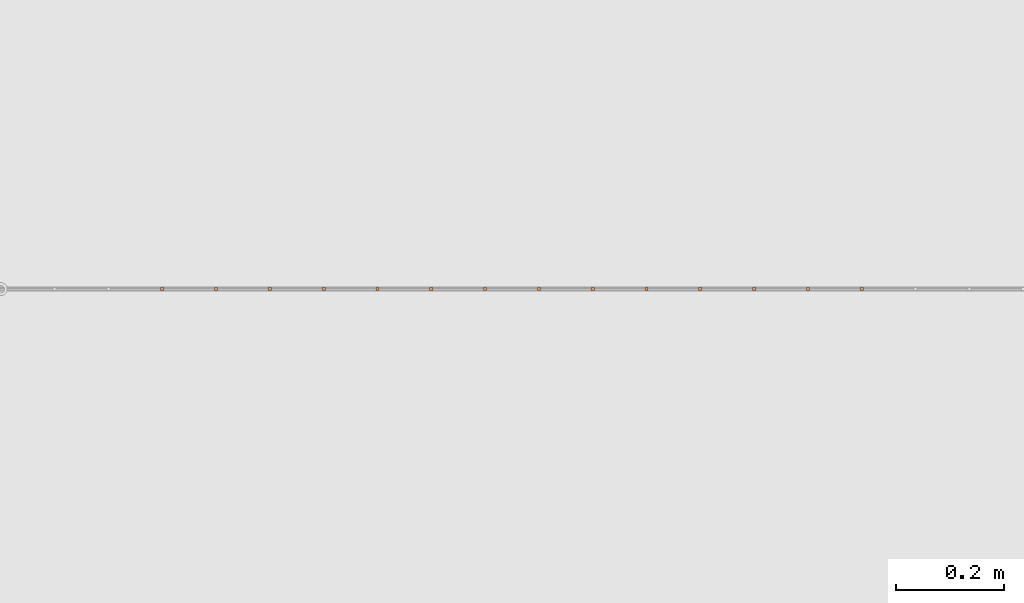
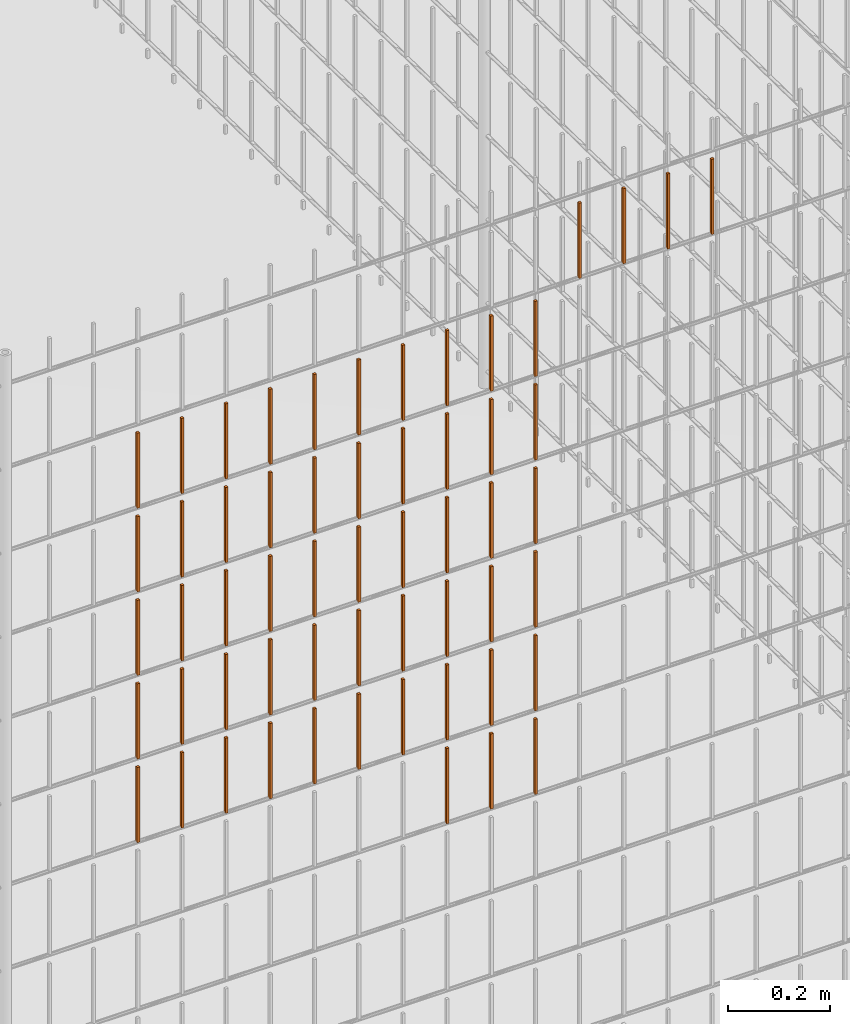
# One storey, part 250 of 1809: 57 proxies, 1 element without a shape of its own.
"""IFC2X3 building model written with IfcOpenShell, lengths in millimetres."""

import ifcopenshell
import ifcopenshell.guid

model = None  # the IFC model being written
_history = None  # IfcOwnerHistory: only IFC2X3 demands one
_inside = {}  # id of a spatial element -> (the spatial element, [elements in it])
_under = {}  # id of a project, library or spatial element -> (it, [spatial elements below it])
_declared = {}  # id of a project -> (the project, [libraries it declares])
_typed = {}  # id of a type object -> (the type object, [elements of that type])
_made_of = {}  # id of a material, layer set ... -> (it, [elements and type objects made of it])


def new_model(schema):
    """Start an empty IFC model of exactly this schema.

    Asked for "IFC4X3", IfcOpenShell would pick the latest addendum, in which some entities
    have other attributes; the version numbers below select the first issue.
    IFC2X3 requires an IfcOwnerHistory on every rooted entity: one is made here for all.
    """
    global model, _history
    if schema == "IFC4X3":
        model = ifcopenshell.file(schema_version=(4, 3, 0, 0))
    else:
        model = ifcopenshell.file(schema=schema)
    _inside.clear()
    _under.clear()
    _declared.clear()
    _typed.clear()
    _made_of.clear()
    _history = None
    if model.schema == "IFC2X3":
        org = make("IfcOrganization", Name="unknown")
        user = make(
            "IfcPersonAndOrganization",
            ThePerson=make("IfcPerson", FamilyName="unknown"),
            TheOrganization=org,
        )
        app = make(
            "IfcApplication",
            ApplicationDeveloper=org,
            Version="unknown",
            ApplicationFullName="unknown",
            ApplicationIdentifier="unknown",
        )
        _history = make(
            "IfcOwnerHistory",
            OwningUser=user,
            OwningApplication=app,
            ChangeAction="ADDED",
            CreationDate=0,
        )
    return model


def make(cls, **values):
    """One entity of the class cls with the attributes given. An attribute that is None is left unset."""
    return model.create_entity(
        cls, **{name: value for name, value in values.items() if value is not None}
    )


def entity(cls, *values):
    """Any entity or typed value of the class cls, its attributes in the order of the schema. None: left unset."""
    e = model.create_entity(cls)
    for i, value in enumerate(values):
        if value is not None:
            e[i] = value
    return e


def rooted(cls, **values):
    """An entity with a GlobalId (a new one), such as an element, a storey or a relation."""
    return make(cls, GlobalId=ifcopenshell.guid.new(), OwnerHistory=_history, **values)


def si_unit(unit_type, name, prefix=None):
    """IfcSIUnit, for example si_unit("LENGTHUNIT", "METRE", prefix="MILLI")."""
    return make("IfcSIUnit", UnitType=unit_type, Prefix=prefix, Name=name)


def converted_unit(unit_type, name, factor, base, dimensions=None, offset=None):
    """IfcConversionBasedUnit, such as the inch: factor (a typed value) times the base unit."""
    return make(
        "IfcConversionBasedUnit"
        if offset is None
        else "IfcConversionBasedUnitWithOffset",
        ConversionOffset=offset,
        Dimensions=None
        if dimensions is None
        else entity("IfcDimensionalExponents", *dimensions),
        UnitType=unit_type,
        Name=name,
        ConversionFactor=make(
            "IfcMeasureWithUnit", ValueComponent=factor, UnitComponent=base
        ),
    )


def derived_unit(unit_type, elements):
    """IfcDerivedUnit: a product of units, each with its exponent."""
    return make(
        "IfcDerivedUnit",
        Elements=[
            make("IfcDerivedUnitElement", Unit=unit, Exponent=power)
            for unit, power in elements
        ],
        UnitType=unit_type,
    )


def money_unit(currency):
    """IfcMonetaryUnit."""
    return make("IfcMonetaryUnit", Currency=currency)


def assignment(units):
    """IfcUnitAssignment: the units of a project."""
    return None if units is None else make("IfcUnitAssignment", Units=units)


def point(xyz):
    """IfcCartesianPoint."""
    return None if xyz is None else make("IfcCartesianPoint", Coordinates=xyz)


def direction(xyz):
    """IfcDirection."""
    return None if xyz is None else make("IfcDirection", DirectionRatios=xyz)


def frame(location, z_axis=None, x_axis=None):
    """IfcAxis2Placement3D, a coordinate frame: its origin and axes. An axis left out is left unset."""
    return make(
        "IfcAxis2Placement3D",
        Location=point(location),
        Axis=direction(z_axis),
        RefDirection=direction(x_axis),
    )


def origin_with_axes():
    """The frame at (0, 0, 0) with the z axis (0, 0, 1) and the x axis (1, 0, 0) written out."""
    return frame((0.0, 0.0, 0.0), z_axis=(0.0, 0.0, 1.0), x_axis=(1.0, 0.0, 0.0))


def place(relative_to, where):
    """IfcLocalPlacement: puts the frame where relative to a parent placement (None: the world)."""
    return make(
        "IfcLocalPlacement", PlacementRelTo=relative_to, RelativePlacement=where
    )


def context(
    kind, dimensions, precision=None, world=None, true_north=None, identifier=None
):
    """IfcGeometricRepresentationContext, for example the 3D "Model" context."""
    return make(
        "IfcGeometricRepresentationContext",
        ContextIdentifier=identifier,
        ContextType=kind,
        CoordinateSpaceDimension=dimensions,
        Precision=precision,
        WorldCoordinateSystem=world,
        TrueNorth=true_north,
    )


def subcontext(parent, identifier, kind, view, scale=None):
    """IfcGeometricRepresentationSubContext, for example "Body" below "Model"."""
    return make(
        "IfcGeometricRepresentationSubContext",
        ContextIdentifier=identifier,
        ContextType=kind,
        ParentContext=parent,
        TargetScale=scale,
        TargetView=view,
    )


def project(units=None, contexts=None):
    """IfcProject with its units and contexts."""
    return rooted(
        "IfcProject",
        Name="project",
        RepresentationContexts=contexts,
        UnitsInContext=assignment(units),
    )


def spatial(cls, under=None, at=None, **own):
    """A site, building, storey or space (cls), placed at a placement, below another one or the project."""
    s = rooted(cls, ObjectPlacement=at, **own)
    if under is not None:
        _under.setdefault(under.id(), (under, []))[1].append(s)
    return s


def faces_of(points, faces, orient=None, outer=None):
    """IfcFace entities. A face is a list of loops; a loop is a list of indices into points, from 0.

    orient and outer hold one flag for each loop. By default every Orientation is true, the
    first loop of a face is its IfcFaceOuterBound and the others are IfcFaceBound.
    """
    made = []
    for i, loops in enumerate(faces):
        bounds = []
        for j, loop in enumerate(loops):
            is_outer = j == 0 if outer is None else outer[i][j]
            bounds.append(
                make(
                    "IfcFaceOuterBound" if is_outer else "IfcFaceBound",
                    Bound=make("IfcPolyLoop", Polygon=[points[k] for k in loop]),
                    Orientation=True if orient is None else orient[i][j],
                )
            )
        made.append(make("IfcFace", Bounds=bounds))
    return made


def faceted_brep(points, faces, orient=None, outer=None, voids=None):
    """IfcFacetedBrep: a solid bounded by flat faces; with voids (closed shells), ...WithVoids."""
    shared = [point(p) for p in points]
    hull = make("IfcClosedShell", CfsFaces=faces_of(shared, faces, orient, outer))
    if voids is None:
        return make("IfcFacetedBrep", Outer=hull)
    return make(
        "IfcFacetedBrepWithVoids",
        Outer=hull,
        Voids=[
            make(cls, CfsFaces=faces_of(shared, fs, o, b)) for cls, fs, o, b in voids
        ],
    )


def shape(context_of_items, identifier, shape_type, items):
    """IfcShapeRepresentation: the items that make up one representation, for example the "Body"."""
    return make(
        "IfcShapeRepresentation",
        ContextOfItems=context_of_items,
        RepresentationIdentifier=identifier,
        RepresentationType=shape_type,
        Items=items,
    )


def source(mapping_origin, context_of_items, identifier, shape_type, items):
    """IfcRepresentationMap: a shape defined once, which mapped items show again and again."""
    return make(
        "IfcRepresentationMap",
        MappingOrigin=mapping_origin,
        MappedRepresentation=shape(context_of_items, identifier, shape_type, items),
    )


def transform(
    local_origin,
    x_axis=None,
    y_axis=None,
    z_axis=None,
    scale=None,
    scale2=None,
    scale3=None,
    uniform=True,
):
    """IfcCartesianTransformationOperator3D, or its non-uniform kind. x_axis, y_axis, z_axis: its Axis1, 2, 3."""
    if uniform:
        return make(
            "IfcCartesianTransformationOperator3D",
            Axis1=direction(x_axis),
            Axis2=direction(y_axis),
            LocalOrigin=point(local_origin),
            Scale=scale,
            Axis3=direction(z_axis),
        )
    return make(
        "IfcCartesianTransformationOperator3DnonUniform",
        Axis1=direction(x_axis),
        Axis2=direction(y_axis),
        LocalOrigin=point(local_origin),
        Scale=scale,
        Axis3=direction(z_axis),
        Scale2=scale2,
        Scale3=scale3,
    )


def mapped(mapping_source, mapping_target):
    """IfcMappedItem: shows the shape of a source again, moved by a transform."""
    return make(
        "IfcMappedItem", MappingSource=mapping_source, MappingTarget=mapping_target
    )


def material(Name=None, Category=None):
    """IfcMaterial."""
    return make("IfcMaterial", Name=Name, Category=Category)


def made_of(thing, what):
    """Note that an element or type object is made of a material, layer set ...; save() writes the relation."""
    if what is not None:
        _made_of.setdefault(what.id(), (what, []))[1].append(thing)
    return thing


def type_object(cls, material=None, **own):
    """A type object (cls), such as IfcWallType, which elements share."""
    return made_of(rooted(cls, **own), material)


def element(
    cls,
    number,
    at=None,
    inside=None,
    cuts=None,
    type_object=None,
    material=None,
    context=None,
    identifier="Body",
    shape_type=None,
    held_by="IfcProductDefinitionShape",
    body=None,
    shapes=None,
    **own,
):
    """One element of the class cls, such as IfcWall. Its Tag is "e" and its number.

    at: its placement. inside: the storey or other place that contains it. cuts: it is an
    opening in that element (IfcRelVoidsElement). A single representation is given by context,
    identifier, shape_type and body (its items); several are given by shapes. held_by: the class
    of the entity that holds the representations. save() writes the other relations.
    """
    e = rooted(cls, Tag="e%d" % number, ObjectPlacement=at, **own)
    if body is not None:
        shapes = [shape(context, identifier, shape_type, body)]
    if shapes is not None:
        e.Representation = make(held_by, Representations=shapes)
    if inside is not None:
        _inside.setdefault(inside.id(), (inside, []))[1].append(e)
    if cuts is not None:
        rooted(
            "IfcRelVoidsElement", RelatingBuildingElement=cuts, RelatedOpeningElement=e
        )
    if type_object is not None:
        _typed.setdefault(type_object.id(), (type_object, []))[1].append(e)
    return made_of(e, material)


def aggregate(whole, parts):
    """IfcRelAggregates: a whole, such as a stair, and the parts it consists of."""
    return rooted("IfcRelAggregates", RelatingObject=whole, RelatedObjects=parts)


def save(model, path):
    """Write the relations noted so far, then the file.

    IfcRelAggregates (storeys below a building ...), IfcRelContainedInSpatialStructure (elements
    in a storey), IfcRelDefinesByType, IfcRelAssociatesMaterial and IfcRelDeclares: one each for
    every whole, place, type object, material and project.
    """
    for whole, parts in _under.values():
        aggregate(whole, parts)
    for where, things in _inside.values():
        rooted(
            "IfcRelContainedInSpatialStructure",
            RelatedElements=things,
            RelatingStructure=where,
        )
    for kind, things in _typed.values():
        rooted("IfcRelDefinesByType", RelatedObjects=things, RelatingType=kind)
    for what, things in _made_of.values():
        rooted("IfcRelAssociatesMaterial", RelatedObjects=things, RelatingMaterial=what)
    for by, libraries in _declared.values():
        rooted("IfcRelDeclares", RelatingContext=by, RelatedDefinitions=libraries)
    model.write(path)


model = new_model("IFC2X3")

# Units and contexts
model_context = context("Model", 3, precision=0.01, world=origin_with_axes(), true_north=direction((0.0, 1.0)))
body_context = subcontext(model_context, "Body", "Model", "MODEL_VIEW")
ifc_project = project(units=[si_unit("LENGTHUNIT", "METRE", prefix="MILLI"), si_unit("AREAUNIT", "SQUARE_METRE"), si_unit("VOLUMEUNIT", "CUBIC_METRE"), converted_unit("PLANEANGLEUNIT", "DEGREE", entity("IfcPlaneAngleMeasure", 0.0174532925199), si_unit("PLANEANGLEUNIT", "RADIAN"), dimensions=[0, 0, 0, 0, 0, 0, 0]), si_unit("SOLIDANGLEUNIT", "STERADIAN"), money_unit("EUR"), converted_unit("TIMEUNIT", "Year", entity("IfcTimeMeasure", 31556926.0), si_unit("TIMEUNIT", "SECOND"), dimensions=[0, 0, 1, 0, 0, 0, 0]), si_unit("MASSUNIT", "GRAM", prefix="KILO"), si_unit("THERMODYNAMICTEMPERATUREUNIT", "DEGREE_CELSIUS"), si_unit("LUMINOUSINTENSITYUNIT", "LUMEN"), si_unit("ENERGYUNIT", "JOULE", prefix="MEGA"), derived_unit("THERMALCONDUCTANCEUNIT", [(si_unit("POWERUNIT", "WATT"), 1), (si_unit("LENGTHUNIT", "METRE"), -1), (si_unit("THERMODYNAMICTEMPERATUREUNIT", "KELVIN"), -1)]), derived_unit("SPECIFICHEATCAPACITYUNIT", [(si_unit("ENERGYUNIT", "JOULE"), 1), (si_unit("MASSUNIT", "GRAM", prefix="KILO"), -1), (si_unit("THERMODYNAMICTEMPERATUREUNIT", "KELVIN"), -1)]), derived_unit("MASSDENSITYUNIT", [(si_unit("MASSUNIT", "GRAM", prefix="KILO"), 1), (si_unit("VOLUMEUNIT", "CUBIC_METRE"), -1)])], contexts=[model_context])

# Site, building, storey
site_placement = place(None, origin_with_axes())
site = spatial("IfcSite", under=ifc_project, at=site_placement, Name="Politse- ja Piirivalveameti ning Päästeameti ühishoone", CompositionType="ELEMENT")
building_placement = place(site_placement, origin_with_axes())
building = spatial("IfcBuilding", under=site, at=building_placement, Name="Politse- ja Piirivalveameti ning Päästeameti ühishoone", CompositionType="ELEMENT")
storey_placement = place(building_placement, origin_with_axes())
storey = spatial("IfcBuildingStorey", under=building, at=storey_placement, Name="Esimene korrus", CompositionType="ELEMENT", Elevation=0.0)

# Proxies
building_element_proxy_type_1 = type_object("IfcBuildingElementProxyType", Name="Railing Type", PredefinedType="NOTDEFINED")
proxy_1_placement = place(storey_placement, frame((-16775.8601056, 25156.7555964, 0.0), z_axis=(0.0, 0.0, 1.0), x_axis=(1.0, 0.0, 0.0)))
proxy_1 = element("IfcBuildingElementProxy", 1, at=proxy_1_placement, inside=storey, type_object=building_element_proxy_type_1, Name="KENNELI PIIRE")
ifc_material = material(Name="Teras - Konstruktsioon")
building_element_proxy_type_2 = type_object("IfcBuildingElementProxyType", Name="IfcBuildingElementProxy", PredefinedType="NOTDEFINED")
shared_shape_1 = source(origin_with_axes(), body_context, "Body", "Brep", [
    faceted_brep([(3.0, 3.0, 0.0), (-3.0, 3.0, 0.0), (-3.0, 3.0, 180.000012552), (3.0, 3.0, 180.000012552), (3.0, -3.0, 0.0), (-3.0, -3.0, 0.0), (-3.0, -3.0, 180.000012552), (3.0, -3.0, 180.000012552)], [[[0, 1, 2, 3]], [[0, 4, 5, 1]], [[1, 5, 6, 2]], [[3, 2, 6, 7]], [[4, 0, 3, 7]], [[5, 4, 7, 6]]]),
])
proxy_2_placement = place(proxy_1_placement, frame((-1382.26655065, -16068.8402798, 1003.99998745), z_axis=(0.0, 0.0, 1.0), x_axis=(1.0, 0.0, 0.0)))
proxy_2 = element("IfcBuildingElementProxy", 2, at=proxy_2_placement, type_object=building_element_proxy_type_2, material=ifc_material, Name="BALUSTER - 001", context=body_context, shape_type="MappedRepresentation", body=[
    mapped(shared_shape_1, transform((0.0, 0.0, 0.0), x_axis=(0.0, -1.0, 0.0), y_axis=(1.0, 0.0, 0.0), z_axis=(0.0, 0.0, 1.0))),
])
proxy_3_placement = place(proxy_1_placement, frame((-1282.26655065, -16068.8402798, 1003.99998745), z_axis=(0.0, 0.0, 1.0), x_axis=(1.0, 0.0, 0.0)))
proxy_3 = element("IfcBuildingElementProxy", 3, at=proxy_3_placement, type_object=building_element_proxy_type_2, material=ifc_material, Name="BALUSTER - 001", context=body_context, shape_type="MappedRepresentation", body=[
    mapped(shared_shape_1, transform((0.0, 0.0, 0.0), x_axis=(0.0, -1.0, 0.0), y_axis=(1.0, 0.0, 0.0), z_axis=(0.0, 0.0, 1.0))),
])
proxy_4_placement = place(proxy_1_placement, frame((-1182.26655065, -16068.8402798, 1003.99998745), z_axis=(0.0, 0.0, 1.0), x_axis=(1.0, 0.0, 0.0)))
proxy_4 = element("IfcBuildingElementProxy", 4, at=proxy_4_placement, type_object=building_element_proxy_type_2, material=ifc_material, Name="BALUSTER - 001", context=body_context, shape_type="MappedRepresentation", body=[
    mapped(shared_shape_1, transform((0.0, 0.0, 0.0), x_axis=(0.0, -1.0, 0.0), y_axis=(1.0, 0.0, 0.0), z_axis=(0.0, 0.0, 1.0))),
])
proxy_5_placement = place(proxy_1_placement, frame((-1282.26655065, -16068.8402798, 1803.99998745), z_axis=(0.0, 0.0, 1.0), x_axis=(1.0, 0.0, 0.0)))
proxy_5 = element("IfcBuildingElementProxy", 5, at=proxy_5_placement, type_object=building_element_proxy_type_2, material=ifc_material, Name="BALUSTER - 001", context=body_context, shape_type="MappedRepresentation", body=[
    mapped(shared_shape_1, transform((0.0, 0.0, 0.0), x_axis=(0.0, -1.0, 0.0), y_axis=(1.0, 0.0, 0.0), z_axis=(0.0, 0.0, 1.0))),
])
shared_shape_2 = source(origin_with_axes(), body_context, "Body", "Brep", [
    faceted_brep([(3.0, 3.0, 0.0), (-3.0, 3.0, 0.0), (-3.0, 3.0, 180.000012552), (3.0, 3.0, 180.000012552), (3.0, -3.0, 0.0), (-3.0, -3.0, 0.0), (-3.0, -3.0, 180.000012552), (3.0, -3.0, 180.000012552)], [[[0, 1, 2, 3]], [[0, 4, 5, 1]], [[1, 5, 6, 2]], [[3, 2, 6, 7]], [[4, 0, 3, 7]], [[5, 4, 7, 6]]]),
])
proxy_6_placement = place(proxy_1_placement, frame((-2082.26655065, -16068.8402798, 1403.99998745), z_axis=(0.0, 0.0, 1.0), x_axis=(1.0, 0.0, 0.0)))
proxy_6 = element("IfcBuildingElementProxy", 6, at=proxy_6_placement, type_object=building_element_proxy_type_2, material=ifc_material, Name="BALUSTER - 001", context=body_context, shape_type="MappedRepresentation", body=[
    mapped(shared_shape_2, transform((0.0, 0.0, 0.0), x_axis=(0.0, -1.0, 0.0), y_axis=(1.0, 0.0, 0.0), z_axis=(0.0, 0.0, 1.0))),
])
proxy_7_placement = place(proxy_1_placement, frame((-1982.26655065, -16068.8402798, 1403.99998745), z_axis=(0.0, 0.0, 1.0), x_axis=(1.0, 0.0, 0.0)))
proxy_7 = element("IfcBuildingElementProxy", 7, at=proxy_7_placement, type_object=building_element_proxy_type_2, material=ifc_material, Name="BALUSTER - 001", context=body_context, shape_type="MappedRepresentation", body=[
    mapped(shared_shape_2, transform((0.0, 0.0, 0.0), x_axis=(0.0, -1.0, 0.0), y_axis=(1.0, 0.0, 0.0), z_axis=(0.0, 0.0, 1.0))),
])
proxy_8_placement = place(proxy_1_placement, frame((-1882.26655065, -16068.8402798, 1403.99998745), z_axis=(0.0, 0.0, 1.0), x_axis=(1.0, 0.0, 0.0)))
proxy_8 = element("IfcBuildingElementProxy", 8, at=proxy_8_placement, type_object=building_element_proxy_type_2, material=ifc_material, Name="BALUSTER - 001", context=body_context, shape_type="MappedRepresentation", body=[
    mapped(shared_shape_2, transform((0.0, 0.0, 0.0), x_axis=(0.0, -1.0, 0.0), y_axis=(1.0, 0.0, 0.0), z_axis=(0.0, 0.0, 1.0))),
])
proxy_9_placement = place(proxy_1_placement, frame((-1782.26655065, -16068.8402798, 1403.99998745), z_axis=(0.0, 0.0, 1.0), x_axis=(1.0, 0.0, 0.0)))
proxy_9 = element("IfcBuildingElementProxy", 9, at=proxy_9_placement, type_object=building_element_proxy_type_2, material=ifc_material, Name="BALUSTER - 001", context=body_context, shape_type="MappedRepresentation", body=[
    mapped(shared_shape_2, transform((0.0, 0.0, 0.0), x_axis=(0.0, -1.0, 0.0), y_axis=(1.0, 0.0, 0.0), z_axis=(0.0, 0.0, 1.0))),
])
proxy_10_placement = place(proxy_1_placement, frame((-1682.26655065, -16068.8402798, 1403.99998745), z_axis=(0.0, 0.0, 1.0), x_axis=(1.0, 0.0, 0.0)))
proxy_10 = element("IfcBuildingElementProxy", 10, at=proxy_10_placement, type_object=building_element_proxy_type_2, material=ifc_material, Name="BALUSTER - 001", context=body_context, shape_type="MappedRepresentation", body=[
    mapped(shared_shape_2, transform((0.0, 0.0, 0.0), x_axis=(0.0, -1.0, 0.0), y_axis=(1.0, 0.0, 0.0), z_axis=(0.0, 0.0, 1.0))),
])
proxy_11_placement = place(proxy_1_placement, frame((-1582.26655065, -16068.8402798, 1403.99998745), z_axis=(0.0, 0.0, 1.0), x_axis=(1.0, 0.0, 0.0)))
proxy_11 = element("IfcBuildingElementProxy", 11, at=proxy_11_placement, type_object=building_element_proxy_type_2, material=ifc_material, Name="BALUSTER - 001", context=body_context, shape_type="MappedRepresentation", body=[
    mapped(shared_shape_2, transform((0.0, 0.0, 0.0), x_axis=(0.0, -1.0, 0.0), y_axis=(1.0, 0.0, 0.0), z_axis=(0.0, 0.0, 1.0))),
])
proxy_12_placement = place(proxy_1_placement, frame((-1482.26655065, -16068.8402798, 1403.99998745), z_axis=(0.0, 0.0, 1.0), x_axis=(1.0, 0.0, 0.0)))
proxy_12 = element("IfcBuildingElementProxy", 12, at=proxy_12_placement, type_object=building_element_proxy_type_2, material=ifc_material, Name="BALUSTER - 001", context=body_context, shape_type="MappedRepresentation", body=[
    mapped(shared_shape_2, transform((0.0, 0.0, 0.0), x_axis=(0.0, -1.0, 0.0), y_axis=(1.0, 0.0, 0.0), z_axis=(0.0, 0.0, 1.0))),
])
proxy_13_placement = place(proxy_1_placement, frame((-1382.26655065, -16068.8402798, 1403.99998745), z_axis=(0.0, 0.0, 1.0), x_axis=(1.0, 0.0, 0.0)))
proxy_13 = element("IfcBuildingElementProxy", 13, at=proxy_13_placement, type_object=building_element_proxy_type_2, material=ifc_material, Name="BALUSTER - 001", context=body_context, shape_type="MappedRepresentation", body=[
    mapped(shared_shape_2, transform((0.0, 0.0, 0.0), x_axis=(0.0, -1.0, 0.0), y_axis=(1.0, 0.0, 0.0), z_axis=(0.0, 0.0, 1.0))),
])
proxy_14_placement = place(proxy_1_placement, frame((-1282.26655065, -16068.8402798, 1403.99998745), z_axis=(0.0, 0.0, 1.0), x_axis=(1.0, 0.0, 0.0)))
proxy_14 = element("IfcBuildingElementProxy", 14, at=proxy_14_placement, type_object=building_element_proxy_type_2, material=ifc_material, Name="BALUSTER - 001", context=body_context, shape_type="MappedRepresentation", body=[
    mapped(shared_shape_2, transform((0.0, 0.0, 0.0), x_axis=(0.0, -1.0, 0.0), y_axis=(1.0, 0.0, 0.0), z_axis=(0.0, 0.0, 1.0))),
])
proxy_15_placement = place(proxy_1_placement, frame((-1182.26655065, -16068.8402798, 1403.99998745), z_axis=(0.0, 0.0, 1.0), x_axis=(1.0, 0.0, 0.0)))
proxy_15 = element("IfcBuildingElementProxy", 15, at=proxy_15_placement, type_object=building_element_proxy_type_2, material=ifc_material, Name="BALUSTER - 001", context=body_context, shape_type="MappedRepresentation", body=[
    mapped(shared_shape_2, transform((0.0, 0.0, 0.0), x_axis=(0.0, -1.0, 0.0), y_axis=(1.0, 0.0, 0.0), z_axis=(0.0, 0.0, 1.0))),
])
shared_shape_3 = source(origin_with_axes(), body_context, "Body", "Brep", [
    faceted_brep([(3.0, 3.0, 0.0), (-3.0, 3.0, 0.0), (-3.0, 3.0, 180.000012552), (3.0, 3.0, 180.000012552), (3.0, -3.0, 0.0), (-3.0, -3.0, 0.0), (-3.0, -3.0, 180.000012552), (3.0, -3.0, 180.000012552)], [[[0, 1, 2, 3]], [[0, 4, 5, 1]], [[1, 5, 6, 2]], [[3, 2, 6, 7]], [[4, 0, 3, 7]], [[5, 4, 7, 6]]]),
])
proxy_16_placement = place(proxy_1_placement, frame((-2082.26655065, -16068.8402798, 1803.99998745), z_axis=(0.0, 0.0, 1.0), x_axis=(1.0, 0.0, 0.0)))
proxy_16 = element("IfcBuildingElementProxy", 16, at=proxy_16_placement, type_object=building_element_proxy_type_2, material=ifc_material, Name="BALUSTER - 001", context=body_context, shape_type="MappedRepresentation", body=[
    mapped(shared_shape_3, transform((0.0, 0.0, 0.0), x_axis=(0.0, -1.0, 0.0), y_axis=(1.0, 0.0, 0.0), z_axis=(0.0, 0.0, 1.0))),
])
proxy_17_placement = place(proxy_1_placement, frame((-1982.26655065, -16068.8402798, 1803.99998745), z_axis=(0.0, 0.0, 1.0), x_axis=(1.0, 0.0, 0.0)))
proxy_17 = element("IfcBuildingElementProxy", 17, at=proxy_17_placement, type_object=building_element_proxy_type_2, material=ifc_material, Name="BALUSTER - 001", context=body_context, shape_type="MappedRepresentation", body=[
    mapped(shared_shape_3, transform((0.0, 0.0, 0.0), x_axis=(0.0, -1.0, 0.0), y_axis=(1.0, 0.0, 0.0), z_axis=(0.0, 0.0, 1.0))),
])
proxy_18_placement = place(proxy_1_placement, frame((-1882.26655065, -16068.8402798, 1803.99998745), z_axis=(0.0, 0.0, 1.0), x_axis=(1.0, 0.0, 0.0)))
proxy_18 = element("IfcBuildingElementProxy", 18, at=proxy_18_placement, type_object=building_element_proxy_type_2, material=ifc_material, Name="BALUSTER - 001", context=body_context, shape_type="MappedRepresentation", body=[
    mapped(shared_shape_3, transform((0.0, 0.0, 0.0), x_axis=(0.0, -1.0, 0.0), y_axis=(1.0, 0.0, 0.0), z_axis=(0.0, 0.0, 1.0))),
])
proxy_19_placement = place(proxy_1_placement, frame((-1782.26655065, -16068.8402798, 1803.99998745), z_axis=(0.0, 0.0, 1.0), x_axis=(1.0, 0.0, 0.0)))
proxy_19 = element("IfcBuildingElementProxy", 19, at=proxy_19_placement, type_object=building_element_proxy_type_2, material=ifc_material, Name="BALUSTER - 001", context=body_context, shape_type="MappedRepresentation", body=[
    mapped(shared_shape_3, transform((0.0, 0.0, 0.0), x_axis=(0.0, -1.0, 0.0), y_axis=(1.0, 0.0, 0.0), z_axis=(0.0, 0.0, 1.0))),
])
proxy_20_placement = place(proxy_1_placement, frame((-1682.26655065, -16068.8402798, 1803.99998745), z_axis=(0.0, 0.0, 1.0), x_axis=(1.0, 0.0, 0.0)))
proxy_20 = element("IfcBuildingElementProxy", 20, at=proxy_20_placement, type_object=building_element_proxy_type_2, material=ifc_material, Name="BALUSTER - 001", context=body_context, shape_type="MappedRepresentation", body=[
    mapped(shared_shape_3, transform((0.0, 0.0, 0.0), x_axis=(0.0, -1.0, 0.0), y_axis=(1.0, 0.0, 0.0), z_axis=(0.0, 0.0, 1.0))),
])
proxy_21_placement = place(proxy_1_placement, frame((-1582.26655065, -16068.8402798, 1803.99998745), z_axis=(0.0, 0.0, 1.0), x_axis=(1.0, 0.0, 0.0)))
proxy_21 = element("IfcBuildingElementProxy", 21, at=proxy_21_placement, type_object=building_element_proxy_type_2, material=ifc_material, Name="BALUSTER - 001", context=body_context, shape_type="MappedRepresentation", body=[
    mapped(shared_shape_3, transform((0.0, 0.0, 0.0), x_axis=(0.0, -1.0, 0.0), y_axis=(1.0, 0.0, 0.0), z_axis=(0.0, 0.0, 1.0))),
])
proxy_22_placement = place(proxy_1_placement, frame((-1382.26655065, -16068.8402798, 1803.99998745), z_axis=(0.0, 0.0, 1.0), x_axis=(1.0, 0.0, 0.0)))
proxy_22 = element("IfcBuildingElementProxy", 22, at=proxy_22_placement, type_object=building_element_proxy_type_2, material=ifc_material, Name="BALUSTER - 001", context=body_context, shape_type="MappedRepresentation", body=[
    mapped(shared_shape_3, transform((0.0, 0.0, 0.0), x_axis=(0.0, -1.0, 0.0), y_axis=(1.0, 0.0, 0.0), z_axis=(0.0, 0.0, 1.0))),
])
proxy_23_placement = place(proxy_1_placement, frame((-1182.26655065, -16068.8402798, 1803.99998745), z_axis=(0.0, 0.0, 1.0), x_axis=(1.0, 0.0, 0.0)))
proxy_23 = element("IfcBuildingElementProxy", 23, at=proxy_23_placement, type_object=building_element_proxy_type_2, material=ifc_material, Name="BALUSTER - 001", context=body_context, shape_type="MappedRepresentation", body=[
    mapped(shared_shape_3, transform((0.0, 0.0, 0.0), x_axis=(0.0, -1.0, 0.0), y_axis=(1.0, 0.0, 0.0), z_axis=(0.0, 0.0, 1.0))),
])
shared_shape_4 = source(origin_with_axes(), body_context, "Body", "Brep", [
    faceted_brep([(3.0, 3.0, 0.0), (-3.0, 3.0, 0.0), (-3.0, 2.99999999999, 180.000012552), (3.0, 2.99999999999, 180.000012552), (3.0, -3.0, 0.0), (-3.0, -3.0, 0.0), (-3.0, -3.00000000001, 180.000012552), (3.0, -3.00000000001, 180.000012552)], [[[0, 1, 2, 3]], [[0, 4, 5, 1]], [[1, 5, 6, 2]], [[3, 2, 6, 7]], [[4, 0, 3, 7]], [[5, 4, 7, 6]]]),
])
proxy_24_placement = place(proxy_1_placement, frame((-1482.26655065, -16068.8402798, 1803.99998745), z_axis=(0.0, 0.0, 1.0), x_axis=(1.0, 0.0, 0.0)))
proxy_24 = element("IfcBuildingElementProxy", 24, at=proxy_24_placement, type_object=building_element_proxy_type_2, material=ifc_material, Name="BALUSTER - 001", context=body_context, shape_type="MappedRepresentation", body=[
    mapped(shared_shape_4, transform((0.0, 0.0, 0.0), x_axis=(0.0, -1.0, 0.0), y_axis=(1.0, 0.0, 0.0), z_axis=(0.0, 0.0, 1.0))),
])
shared_shape_5 = source(origin_with_axes(), body_context, "Body", "Brep", [
    faceted_brep([(3.0, 3.0, 0.0), (-3.0, 3.0, 0.0), (-3.0, 3.0, 180.000012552), (3.0, 3.0, 180.000012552), (3.0, -3.0, 0.0), (-3.0, -3.0, 0.0), (-3.0, -3.0, 180.000012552), (3.0, -3.0, 180.000012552)], [[[0, 1, 2, 3]], [[0, 4, 5, 1]], [[1, 5, 6, 2]], [[3, 2, 6, 7]], [[4, 0, 3, 7]], [[5, 4, 7, 6]]]),
])
proxy_25_placement = place(proxy_1_placement, frame((-2082.26655065, -16068.8402798, 2003.99998745), z_axis=(0.0, 0.0, 1.0), x_axis=(1.0, 0.0, 0.0)))
proxy_25 = element("IfcBuildingElementProxy", 25, at=proxy_25_placement, type_object=building_element_proxy_type_2, material=ifc_material, Name="BALUSTER - 001", context=body_context, shape_type="MappedRepresentation", body=[
    mapped(shared_shape_5, transform((0.0, 0.0, 0.0), x_axis=(0.0, -1.0, 0.0), y_axis=(1.0, 0.0, 0.0), z_axis=(0.0, 0.0, 1.0))),
])
proxy_26_placement = place(proxy_1_placement, frame((-1982.26655065, -16068.8402798, 2003.99998745), z_axis=(0.0, 0.0, 1.0), x_axis=(1.0, 0.0, 0.0)))
proxy_26 = element("IfcBuildingElementProxy", 26, at=proxy_26_placement, type_object=building_element_proxy_type_2, material=ifc_material, Name="BALUSTER - 001", context=body_context, shape_type="MappedRepresentation", body=[
    mapped(shared_shape_5, transform((0.0, 0.0, 0.0), x_axis=(0.0, -1.0, 0.0), y_axis=(1.0, 0.0, 0.0), z_axis=(0.0, 0.0, 1.0))),
])
proxy_27_placement = place(proxy_1_placement, frame((-1882.26655065, -16068.8402798, 2003.99998745), z_axis=(0.0, 0.0, 1.0), x_axis=(1.0, 0.0, 0.0)))
proxy_27 = element("IfcBuildingElementProxy", 27, at=proxy_27_placement, type_object=building_element_proxy_type_2, material=ifc_material, Name="BALUSTER - 001", context=body_context, shape_type="MappedRepresentation", body=[
    mapped(shared_shape_5, transform((0.0, 0.0, 0.0), x_axis=(0.0, -1.0, 0.0), y_axis=(1.0, 0.0, 0.0), z_axis=(0.0, 0.0, 1.0))),
])
proxy_28_placement = place(proxy_1_placement, frame((-1782.26655065, -16068.8402798, 2003.99998745), z_axis=(0.0, 0.0, 1.0), x_axis=(1.0, 0.0, 0.0)))
proxy_28 = element("IfcBuildingElementProxy", 28, at=proxy_28_placement, type_object=building_element_proxy_type_2, material=ifc_material, Name="BALUSTER - 001", context=body_context, shape_type="MappedRepresentation", body=[
    mapped(shared_shape_5, transform((0.0, 0.0, 0.0), x_axis=(0.0, -1.0, 0.0), y_axis=(1.0, 0.0, 0.0), z_axis=(0.0, 0.0, 1.0))),
])
proxy_29_placement = place(proxy_1_placement, frame((-1682.26655065, -16068.8402798, 2003.99998745), z_axis=(0.0, 0.0, 1.0), x_axis=(1.0, 0.0, 0.0)))
proxy_29 = element("IfcBuildingElementProxy", 29, at=proxy_29_placement, type_object=building_element_proxy_type_2, material=ifc_material, Name="BALUSTER - 001", context=body_context, shape_type="MappedRepresentation", body=[
    mapped(shared_shape_5, transform((0.0, 0.0, 0.0), x_axis=(0.0, -1.0, 0.0), y_axis=(1.0, 0.0, 0.0), z_axis=(0.0, 0.0, 1.0))),
])
proxy_30_placement = place(proxy_1_placement, frame((-1582.26655065, -16068.8402798, 2003.99998745), z_axis=(0.0, 0.0, 1.0), x_axis=(1.0, 0.0, 0.0)))
proxy_30 = element("IfcBuildingElementProxy", 30, at=proxy_30_placement, type_object=building_element_proxy_type_2, material=ifc_material, Name="BALUSTER - 001", context=body_context, shape_type="MappedRepresentation", body=[
    mapped(shared_shape_5, transform((0.0, 0.0, 0.0), x_axis=(0.0, -1.0, 0.0), y_axis=(1.0, 0.0, 0.0), z_axis=(0.0, 0.0, 1.0))),
])
proxy_31_placement = place(proxy_1_placement, frame((-1482.26655065, -16068.8402798, 2003.99998745), z_axis=(0.0, 0.0, 1.0), x_axis=(1.0, 0.0, 0.0)))
proxy_31 = element("IfcBuildingElementProxy", 31, at=proxy_31_placement, type_object=building_element_proxy_type_2, material=ifc_material, Name="BALUSTER - 001", context=body_context, shape_type="MappedRepresentation", body=[
    mapped(shared_shape_5, transform((0.0, 0.0, 0.0), x_axis=(0.0, -1.0, 0.0), y_axis=(1.0, 0.0, 0.0), z_axis=(0.0, 0.0, 1.0))),
])
proxy_32_placement = place(proxy_1_placement, frame((-1382.26655065, -16068.8402798, 2003.99998745), z_axis=(0.0, 0.0, 1.0), x_axis=(1.0, 0.0, 0.0)))
proxy_32 = element("IfcBuildingElementProxy", 32, at=proxy_32_placement, type_object=building_element_proxy_type_2, material=ifc_material, Name="BALUSTER - 001", context=body_context, shape_type="MappedRepresentation", body=[
    mapped(shared_shape_5, transform((0.0, 0.0, 0.0), x_axis=(0.0, -1.0, 0.0), y_axis=(1.0, 0.0, 0.0), z_axis=(0.0, 0.0, 1.0))),
])
proxy_33_placement = place(proxy_1_placement, frame((-1282.26655065, -16068.8402798, 2003.99998745), z_axis=(0.0, 0.0, 1.0), x_axis=(1.0, 0.0, 0.0)))
proxy_33 = element("IfcBuildingElementProxy", 33, at=proxy_33_placement, type_object=building_element_proxy_type_2, material=ifc_material, Name="BALUSTER - 001", context=body_context, shape_type="MappedRepresentation", body=[
    mapped(shared_shape_5, transform((0.0, 0.0, 0.0), x_axis=(0.0, -1.0, 0.0), y_axis=(1.0, 0.0, 0.0), z_axis=(0.0, 0.0, 1.0))),
])
proxy_34_placement = place(proxy_1_placement, frame((-1182.26655065, -16068.8402798, 2003.99998745), z_axis=(0.0, 0.0, 1.0), x_axis=(1.0, 0.0, 0.0)))
proxy_34 = element("IfcBuildingElementProxy", 34, at=proxy_34_placement, type_object=building_element_proxy_type_2, material=ifc_material, Name="BALUSTER - 001", context=body_context, shape_type="MappedRepresentation", body=[
    mapped(shared_shape_5, transform((0.0, 0.0, 0.0), x_axis=(0.0, -1.0, 0.0), y_axis=(1.0, 0.0, 0.0), z_axis=(0.0, 0.0, 1.0))),
])
shared_shape_6 = source(origin_with_axes(), body_context, "Body", "Brep", [
    faceted_brep([(3.0, 3.0, 0.0), (-3.0, 3.0, 0.0), (-3.0, 3.0, 180.000012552), (3.0, 3.0, 180.000012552), (3.0, -3.0, 0.0), (-3.0, -3.0, 0.0), (-3.0, -3.0, 180.000012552), (3.0, -3.0, 180.000012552)], [[[0, 1, 2, 3]], [[0, 4, 5, 1]], [[1, 5, 6, 2]], [[3, 2, 6, 7]], [[4, 0, 3, 7]], [[5, 4, 7, 6]]]),
])
proxy_35_placement = place(proxy_1_placement, frame((-1082.26655065, -16068.8402798, 2203.99998745), z_axis=(0.0, 0.0, 1.0), x_axis=(1.0, 0.0, 0.0)))
proxy_35 = element("IfcBuildingElementProxy", 35, at=proxy_35_placement, type_object=building_element_proxy_type_2, material=ifc_material, Name="BALUSTER - 001", context=body_context, shape_type="MappedRepresentation", body=[
    mapped(shared_shape_6, transform((0.0, 0.0, 0.0), x_axis=(0.0, -1.0, 0.0), y_axis=(1.0, 0.0, 0.0), z_axis=(0.0, 0.0, 1.0))),
])
proxy_36_placement = place(proxy_1_placement, frame((-982.266550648, -16068.8402798, 2203.99998745), z_axis=(0.0, 0.0, 1.0), x_axis=(1.0, 0.0, 0.0)))
proxy_36 = element("IfcBuildingElementProxy", 36, at=proxy_36_placement, type_object=building_element_proxy_type_2, material=ifc_material, Name="BALUSTER - 001", context=body_context, shape_type="MappedRepresentation", body=[
    mapped(shared_shape_6, transform((0.0, 0.0, 0.0), x_axis=(0.0, -1.0, 0.0), y_axis=(1.0, 0.0, 0.0), z_axis=(0.0, 0.0, 1.0))),
])
proxy_37_placement = place(proxy_1_placement, frame((-882.266550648, -16068.8402798, 2203.99998745), z_axis=(0.0, 0.0, 1.0), x_axis=(1.0, 0.0, 0.0)))
proxy_37 = element("IfcBuildingElementProxy", 37, at=proxy_37_placement, type_object=building_element_proxy_type_2, material=ifc_material, Name="BALUSTER - 001", context=body_context, shape_type="MappedRepresentation", body=[
    mapped(shared_shape_6, transform((0.0, 0.0, 0.0), x_axis=(0.0, -1.0, 0.0), y_axis=(1.0, 0.0, 0.0), z_axis=(0.0, 0.0, 1.0))),
])
proxy_38_placement = place(proxy_1_placement, frame((-782.266550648, -16068.8402798, 2203.99998745), z_axis=(0.0, 0.0, 1.0), x_axis=(1.0, 0.0, 0.0)))
proxy_38 = element("IfcBuildingElementProxy", 38, at=proxy_38_placement, type_object=building_element_proxy_type_2, material=ifc_material, Name="BALUSTER - 001", context=body_context, shape_type="MappedRepresentation", body=[
    mapped(shared_shape_6, transform((0.0, 0.0, 0.0), x_axis=(0.0, -1.0, 0.0), y_axis=(1.0, 0.0, 0.0), z_axis=(0.0, 0.0, 1.0))),
])
proxy_39_placement = place(proxy_1_placement, frame((-2082.26655065, -16068.8402798, 1203.99998745), z_axis=(0.0, 0.0, 1.0), x_axis=(1.0, 0.0, 0.0)))
proxy_39 = element("IfcBuildingElementProxy", 39, at=proxy_39_placement, type_object=building_element_proxy_type_2, material=ifc_material, Name="BALUSTER - 001", context=body_context, shape_type="MappedRepresentation", body=[
    mapped(shared_shape_6, transform((0.0, 0.0, 0.0), x_axis=(0.0, -1.0, 0.0), y_axis=(1.0, 0.0, 0.0), z_axis=(0.0, 0.0, 1.0))),
])
proxy_40_placement = place(proxy_1_placement, frame((-1982.26655065, -16068.8402798, 1203.99998745), z_axis=(0.0, 0.0, 1.0), x_axis=(1.0, 0.0, 0.0)))
proxy_40 = element("IfcBuildingElementProxy", 40, at=proxy_40_placement, type_object=building_element_proxy_type_2, material=ifc_material, Name="BALUSTER - 001", context=body_context, shape_type="MappedRepresentation", body=[
    mapped(shared_shape_6, transform((0.0, 0.0, 0.0), x_axis=(0.0, -1.0, 0.0), y_axis=(1.0, 0.0, 0.0), z_axis=(0.0, 0.0, 1.0))),
])
proxy_41_placement = place(proxy_1_placement, frame((-1882.26655065, -16068.8402798, 1203.99998745), z_axis=(0.0, 0.0, 1.0), x_axis=(1.0, 0.0, 0.0)))
proxy_41 = element("IfcBuildingElementProxy", 41, at=proxy_41_placement, type_object=building_element_proxy_type_2, material=ifc_material, Name="BALUSTER - 001", context=body_context, shape_type="MappedRepresentation", body=[
    mapped(shared_shape_6, transform((0.0, 0.0, 0.0), x_axis=(0.0, -1.0, 0.0), y_axis=(1.0, 0.0, 0.0), z_axis=(0.0, 0.0, 1.0))),
])
proxy_42_placement = place(proxy_1_placement, frame((-1782.26655065, -16068.8402798, 1203.99998745), z_axis=(0.0, 0.0, 1.0), x_axis=(1.0, 0.0, 0.0)))
proxy_42 = element("IfcBuildingElementProxy", 42, at=proxy_42_placement, type_object=building_element_proxy_type_2, material=ifc_material, Name="BALUSTER - 001", context=body_context, shape_type="MappedRepresentation", body=[
    mapped(shared_shape_6, transform((0.0, 0.0, 0.0), x_axis=(0.0, -1.0, 0.0), y_axis=(1.0, 0.0, 0.0), z_axis=(0.0, 0.0, 1.0))),
])
proxy_43_placement = place(proxy_1_placement, frame((-1682.26655065, -16068.8402798, 1203.99998745), z_axis=(0.0, 0.0, 1.0), x_axis=(1.0, 0.0, 0.0)))
proxy_43 = element("IfcBuildingElementProxy", 43, at=proxy_43_placement, type_object=building_element_proxy_type_2, material=ifc_material, Name="BALUSTER - 001", context=body_context, shape_type="MappedRepresentation", body=[
    mapped(shared_shape_6, transform((0.0, 0.0, 0.0), x_axis=(0.0, -1.0, 0.0), y_axis=(1.0, 0.0, 0.0), z_axis=(0.0, 0.0, 1.0))),
])
proxy_44_placement = place(proxy_1_placement, frame((-1582.26655065, -16068.8402798, 1203.99998745), z_axis=(0.0, 0.0, 1.0), x_axis=(1.0, 0.0, 0.0)))
proxy_44 = element("IfcBuildingElementProxy", 44, at=proxy_44_placement, type_object=building_element_proxy_type_2, material=ifc_material, Name="BALUSTER - 001", context=body_context, shape_type="MappedRepresentation", body=[
    mapped(shared_shape_6, transform((0.0, 0.0, 0.0), x_axis=(0.0, -1.0, 0.0), y_axis=(1.0, 0.0, 0.0), z_axis=(0.0, 0.0, 1.0))),
])
proxy_45_placement = place(proxy_1_placement, frame((-1482.26655065, -16068.8402798, 1203.99998745), z_axis=(0.0, 0.0, 1.0), x_axis=(1.0, 0.0, 0.0)))
proxy_45 = element("IfcBuildingElementProxy", 45, at=proxy_45_placement, type_object=building_element_proxy_type_2, material=ifc_material, Name="BALUSTER - 001", context=body_context, shape_type="MappedRepresentation", body=[
    mapped(shared_shape_6, transform((0.0, 0.0, 0.0), x_axis=(0.0, -1.0, 0.0), y_axis=(1.0, 0.0, 0.0), z_axis=(0.0, 0.0, 1.0))),
])
proxy_46_placement = place(proxy_1_placement, frame((-1382.26655065, -16068.8402798, 1203.99998745), z_axis=(0.0, 0.0, 1.0), x_axis=(1.0, 0.0, 0.0)))
proxy_46 = element("IfcBuildingElementProxy", 46, at=proxy_46_placement, type_object=building_element_proxy_type_2, material=ifc_material, Name="BALUSTER - 001", context=body_context, shape_type="MappedRepresentation", body=[
    mapped(shared_shape_6, transform((0.0, 0.0, 0.0), x_axis=(0.0, -1.0, 0.0), y_axis=(1.0, 0.0, 0.0), z_axis=(0.0, 0.0, 1.0))),
])
proxy_47_placement = place(proxy_1_placement, frame((-1282.26655065, -16068.8402798, 1203.99998745), z_axis=(0.0, 0.0, 1.0), x_axis=(1.0, 0.0, 0.0)))
proxy_47 = element("IfcBuildingElementProxy", 47, at=proxy_47_placement, type_object=building_element_proxy_type_2, material=ifc_material, Name="BALUSTER - 001", context=body_context, shape_type="MappedRepresentation", body=[
    mapped(shared_shape_6, transform((0.0, 0.0, 0.0), x_axis=(0.0, -1.0, 0.0), y_axis=(1.0, 0.0, 0.0), z_axis=(0.0, 0.0, 1.0))),
])
proxy_48_placement = place(proxy_1_placement, frame((-1182.26655065, -16068.8402798, 1203.99998745), z_axis=(0.0, 0.0, 1.0), x_axis=(1.0, 0.0, 0.0)))
proxy_48 = element("IfcBuildingElementProxy", 48, at=proxy_48_placement, type_object=building_element_proxy_type_2, material=ifc_material, Name="BALUSTER - 001", context=body_context, shape_type="MappedRepresentation", body=[
    mapped(shared_shape_6, transform((0.0, 0.0, 0.0), x_axis=(0.0, -1.0, 0.0), y_axis=(1.0, 0.0, 0.0), z_axis=(0.0, 0.0, 1.0))),
])
shared_shape_7 = source(origin_with_axes(), body_context, "Body", "Brep", [
    faceted_brep([(3.0, 3.0, 0.0), (-3.0, 3.0, 0.0), (-3.0, 3.0, 180.000012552), (3.0, 3.0, 180.000012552), (3.0, -3.0, 0.0), (-3.0, -3.0, 0.0), (-3.0, -3.0, 180.000012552), (3.0, -3.0, 180.000012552)], [[[0, 1, 2, 3]], [[0, 4, 5, 1]], [[1, 5, 6, 2]], [[3, 2, 6, 7]], [[4, 0, 3, 7]], [[5, 4, 7, 6]]]),
])
proxy_49_placement = place(proxy_1_placement, frame((-2082.26655065, -16068.8402798, 1603.99998745), z_axis=(0.0, 0.0, 1.0), x_axis=(1.0, 0.0, 0.0)))
proxy_49 = element("IfcBuildingElementProxy", 49, at=proxy_49_placement, type_object=building_element_proxy_type_2, material=ifc_material, Name="BALUSTER - 001", context=body_context, shape_type="MappedRepresentation", body=[
    mapped(shared_shape_7, transform((0.0, 0.0, 0.0), x_axis=(0.0, -1.0, 0.0), y_axis=(1.0, 0.0, 0.0), z_axis=(0.0, 0.0, 1.0))),
])
proxy_50_placement = place(proxy_1_placement, frame((-1982.26655065, -16068.8402798, 1603.99998745), z_axis=(0.0, 0.0, 1.0), x_axis=(1.0, 0.0, 0.0)))
proxy_50 = element("IfcBuildingElementProxy", 50, at=proxy_50_placement, type_object=building_element_proxy_type_2, material=ifc_material, Name="BALUSTER - 001", context=body_context, shape_type="MappedRepresentation", body=[
    mapped(shared_shape_7, transform((0.0, 0.0, 0.0), x_axis=(0.0, -1.0, 0.0), y_axis=(1.0, 0.0, 0.0), z_axis=(0.0, 0.0, 1.0))),
])
proxy_51_placement = place(proxy_1_placement, frame((-1882.26655065, -16068.8402798, 1603.99998745), z_axis=(0.0, 0.0, 1.0), x_axis=(1.0, 0.0, 0.0)))
proxy_51 = element("IfcBuildingElementProxy", 51, at=proxy_51_placement, type_object=building_element_proxy_type_2, material=ifc_material, Name="BALUSTER - 001", context=body_context, shape_type="MappedRepresentation", body=[
    mapped(shared_shape_7, transform((0.0, 0.0, 0.0), x_axis=(0.0, -1.0, 0.0), y_axis=(1.0, 0.0, 0.0), z_axis=(0.0, 0.0, 1.0))),
])
proxy_52_placement = place(proxy_1_placement, frame((-1782.26655065, -16068.8402798, 1603.99998745), z_axis=(0.0, 0.0, 1.0), x_axis=(1.0, 0.0, 0.0)))
proxy_52 = element("IfcBuildingElementProxy", 52, at=proxy_52_placement, type_object=building_element_proxy_type_2, material=ifc_material, Name="BALUSTER - 001", context=body_context, shape_type="MappedRepresentation", body=[
    mapped(shared_shape_7, transform((0.0, 0.0, 0.0), x_axis=(0.0, -1.0, 0.0), y_axis=(1.0, 0.0, 0.0), z_axis=(0.0, 0.0, 1.0))),
])
proxy_53_placement = place(proxy_1_placement, frame((-1682.26655065, -16068.8402798, 1603.99998745), z_axis=(0.0, 0.0, 1.0), x_axis=(1.0, 0.0, 0.0)))
proxy_53 = element("IfcBuildingElementProxy", 53, at=proxy_53_placement, type_object=building_element_proxy_type_2, material=ifc_material, Name="BALUSTER - 001", context=body_context, shape_type="MappedRepresentation", body=[
    mapped(shared_shape_7, transform((0.0, 0.0, 0.0), x_axis=(0.0, -1.0, 0.0), y_axis=(1.0, 0.0, 0.0), z_axis=(0.0, 0.0, 1.0))),
])
proxy_54_placement = place(proxy_1_placement, frame((-1582.26655065, -16068.8402798, 1603.99998745), z_axis=(0.0, 0.0, 1.0), x_axis=(1.0, 0.0, 0.0)))
proxy_54 = element("IfcBuildingElementProxy", 54, at=proxy_54_placement, type_object=building_element_proxy_type_2, material=ifc_material, Name="BALUSTER - 001", context=body_context, shape_type="MappedRepresentation", body=[
    mapped(shared_shape_7, transform((0.0, 0.0, 0.0), x_axis=(0.0, -1.0, 0.0), y_axis=(1.0, 0.0, 0.0), z_axis=(0.0, 0.0, 1.0))),
])
proxy_55_placement = place(proxy_1_placement, frame((-1482.26655065, -16068.8402798, 1603.99998745), z_axis=(0.0, 0.0, 1.0), x_axis=(1.0, 0.0, 0.0)))
proxy_55 = element("IfcBuildingElementProxy", 55, at=proxy_55_placement, type_object=building_element_proxy_type_2, material=ifc_material, Name="BALUSTER - 001", context=body_context, shape_type="MappedRepresentation", body=[
    mapped(shared_shape_7, transform((0.0, 0.0, 0.0), x_axis=(0.0, -1.0, 0.0), y_axis=(1.0, 0.0, 0.0), z_axis=(0.0, 0.0, 1.0))),
])
proxy_56_placement = place(proxy_1_placement, frame((-1382.26655065, -16068.8402798, 1603.99998745), z_axis=(0.0, 0.0, 1.0), x_axis=(1.0, 0.0, 0.0)))
proxy_56 = element("IfcBuildingElementProxy", 56, at=proxy_56_placement, type_object=building_element_proxy_type_2, material=ifc_material, Name="BALUSTER - 001", context=body_context, shape_type="MappedRepresentation", body=[
    mapped(shared_shape_7, transform((0.0, 0.0, 0.0), x_axis=(0.0, -1.0, 0.0), y_axis=(1.0, 0.0, 0.0), z_axis=(0.0, 0.0, 1.0))),
])
proxy_57_placement = place(proxy_1_placement, frame((-1282.26655065, -16068.8402798, 1603.99998745), z_axis=(0.0, 0.0, 1.0), x_axis=(1.0, 0.0, 0.0)))
proxy_57 = element("IfcBuildingElementProxy", 57, at=proxy_57_placement, type_object=building_element_proxy_type_2, material=ifc_material, Name="BALUSTER - 001", context=body_context, shape_type="MappedRepresentation", body=[
    mapped(shared_shape_7, transform((0.0, 0.0, 0.0), x_axis=(0.0, -1.0, 0.0), y_axis=(1.0, 0.0, 0.0), z_axis=(0.0, 0.0, 1.0))),
])
proxy_58_placement = place(proxy_1_placement, frame((-1182.26655065, -16068.8402798, 1603.99998745), z_axis=(0.0, 0.0, 1.0), x_axis=(1.0, 0.0, 0.0)))
proxy_58 = element("IfcBuildingElementProxy", 58, at=proxy_58_placement, type_object=building_element_proxy_type_2, material=ifc_material, Name="BALUSTER - 001", context=body_context, shape_type="MappedRepresentation", body=[
    mapped(shared_shape_7, transform((0.0, 0.0, 0.0), x_axis=(0.0, -1.0, 0.0), y_axis=(1.0, 0.0, 0.0), z_axis=(0.0, 0.0, 1.0))),
])
aggregate(proxy_1, [proxy_35, proxy_36, proxy_37, proxy_38, proxy_2, proxy_3, proxy_4, proxy_39, proxy_40, proxy_41, proxy_42, proxy_43, proxy_44, proxy_45, proxy_46, proxy_47, proxy_48, proxy_6, proxy_7, proxy_8, proxy_9, proxy_10, proxy_11, proxy_12, proxy_13, proxy_14, proxy_15, proxy_49, proxy_50, proxy_51, proxy_52, proxy_53, proxy_54, proxy_55, proxy_56, proxy_57, proxy_58, proxy_16, proxy_17, proxy_18, proxy_19, proxy_20, proxy_21, proxy_24, proxy_22, proxy_5, proxy_23, proxy_25, proxy_26, proxy_27, proxy_28, proxy_29, proxy_30, proxy_31, proxy_32, proxy_33, proxy_34])

save(model, "model.ifc")
